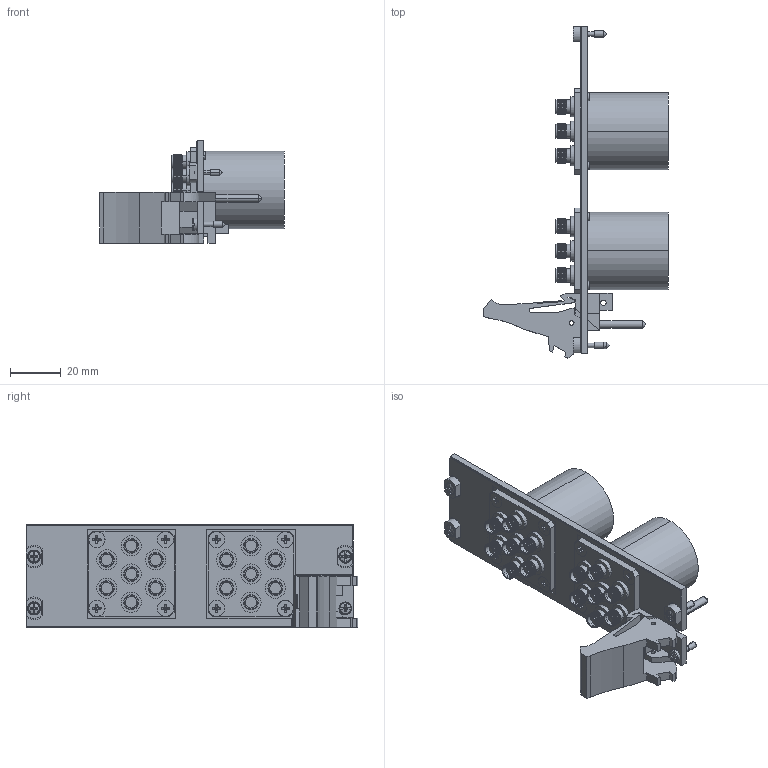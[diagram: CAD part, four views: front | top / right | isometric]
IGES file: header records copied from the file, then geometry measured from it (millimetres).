
Start section:  PTC IGES file: cu_pxi-2596.igs
Global section: file name: cu_pxi-2596.igs; native system: Pro/ENGINEER by Parametric Technology Corporation; preprocessor: 2006080; author: jjorden; organization: Unknown; date: 090910.132016; units: inch
Bounding box: 72.64 x 130.5 x 40.34 mm (x, y, z)
Surface area: 29490 mm2 (no closed solid volume)
Topology: 0 solids, 0 shells, 1661 faces, 7256 edges, 7212 vertices
Faces by surface type: revolution 976, bspline 685
